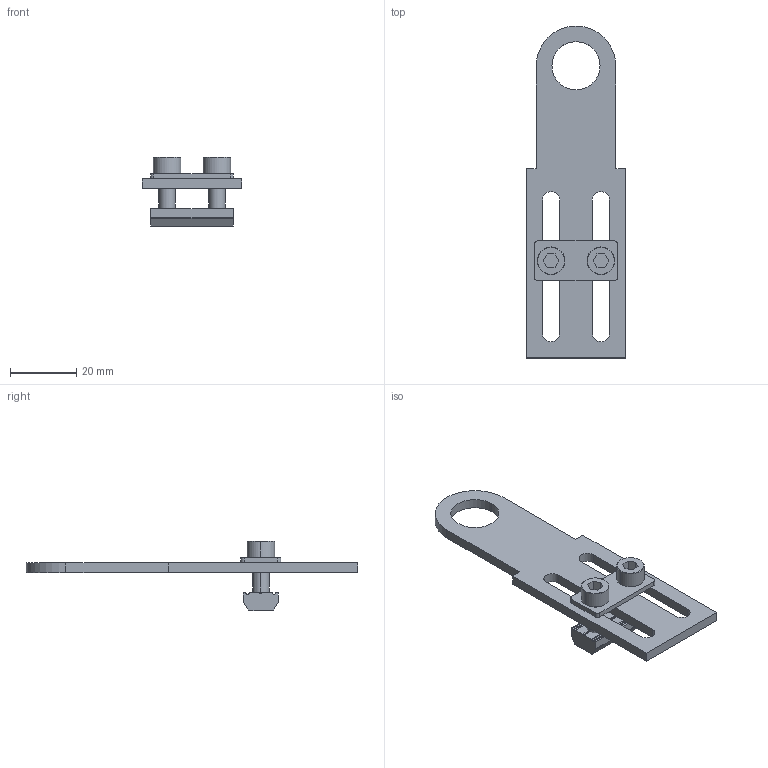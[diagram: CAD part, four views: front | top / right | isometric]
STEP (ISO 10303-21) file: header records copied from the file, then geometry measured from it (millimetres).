
FILE_DESCRIPTION (( 'STEP AP214' ), '1' );
FILE_NAME ('SMBE6-1440T.STEP', '2023-01-09T09:26:45', ( 'Windows User' ), ( 'P R C' ), 'SwSTEP 2.0', 'SolidWorks 2018', '' );
FILE_SCHEMA (( 'AUTOMOTIVE_DESIGN' ));
Length unit declared in the file: millimetre
Products named in the file (5): PTD-M5P15; SMBE6-1440T; SMB6-1440.1; PTC-M5L16; PTN-M5P15
Assembly tree (5 placements, depth 2):
  SMBE6-1440T
    SMB6-1440.1
    PTC-M5L16  x2
    PTD-M5P15
    PTN-M5P15
Bounding box: 30 x 100 x 21 mm (x, y, z)
Volume: 8744.5 mm3; surface area: 8280.4 mm2
Topology: 5 solids, 5 shells, 135 faces, 363 edges, 238 vertices
Faces by surface type: plane 67, cylinder 56, cone 12
Entity records: 4003 total; most frequent: CARTESIAN_POINT 800, ORIENTED_EDGE 642, DIRECTION 605, EDGE_CURVE 321, VERTEX_POINT 212, AXIS2_PLACEMENT_3D 209, LINE 187, VECTOR 187
